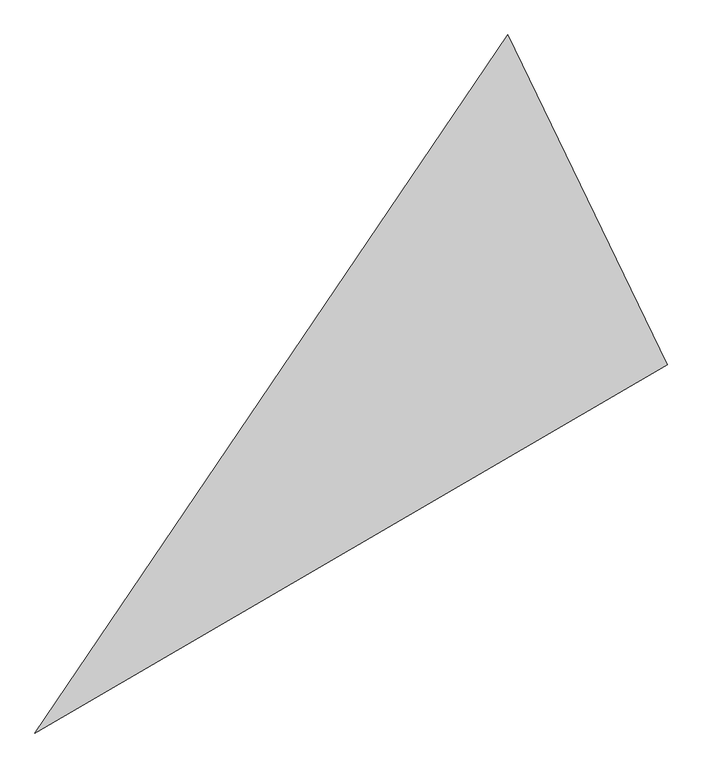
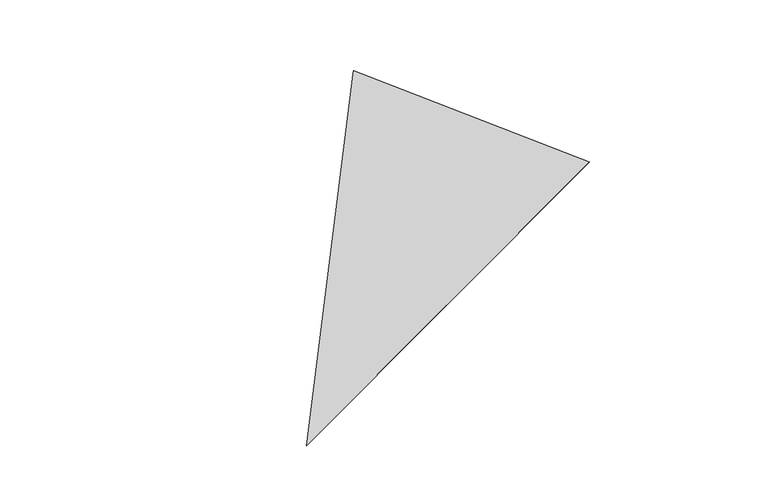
"""IFC4 building model written with IfcOpenShell, lengths in millimetres: proxy geometry, инсографик(типовая) : инсографик(типовая)."""

from ifc_helpers import new_model, si_unit, origin, origin_with_axes, place, context, project, spatial, polyline, outline, extrude, source, transform, mapped, element, save


def specialty_equipment_8b872ac2(model_context):
    return source(origin(), model_context, "Body", "SweptSolid", [
        extrude(outline(polyline([(83769.6999517, -53657.8582254), (-18689.7479824, -113374.8751984), (57920.2652448, -217.8001614), (83769.6999517, -53657.8582254)])), origin_with_axes(), (0.0, 0.0, 1.0), 3.0),
    ])


if __name__ == "__main__":
    model = new_model("IFC4")
    model_context = context("Model", 3, world=origin())
    ifc_project = project(units=[si_unit("LENGTHUNIT", "METRE", prefix="MILLI")], contexts=[model_context])
    site = spatial("IfcSite", under=ifc_project)
    building = spatial("IfcBuilding", under=site)
    placement = place(None, origin())
    specialty_equipment_shape = specialty_equipment_8b872ac2(model_context)
    element("IfcBuildingElementProxy", 1, Name="инсографик(типовая) : инсографик(типовая)", ObjectType="инсографик(типовая) : инсографик(типовая)", at=placement, inside=building, context=model_context, shape_type="MappedRepresentation", body=[
        mapped(specialty_equipment_shape, transform((0.0, 0.0, 0.0), x_axis=(1.0, 0.0, 0.0), y_axis=(0.0, 1.0, 0.0), z_axis=(0.0, 0.0, 1.0))),
    ])
    save(model, "model.ifc")
